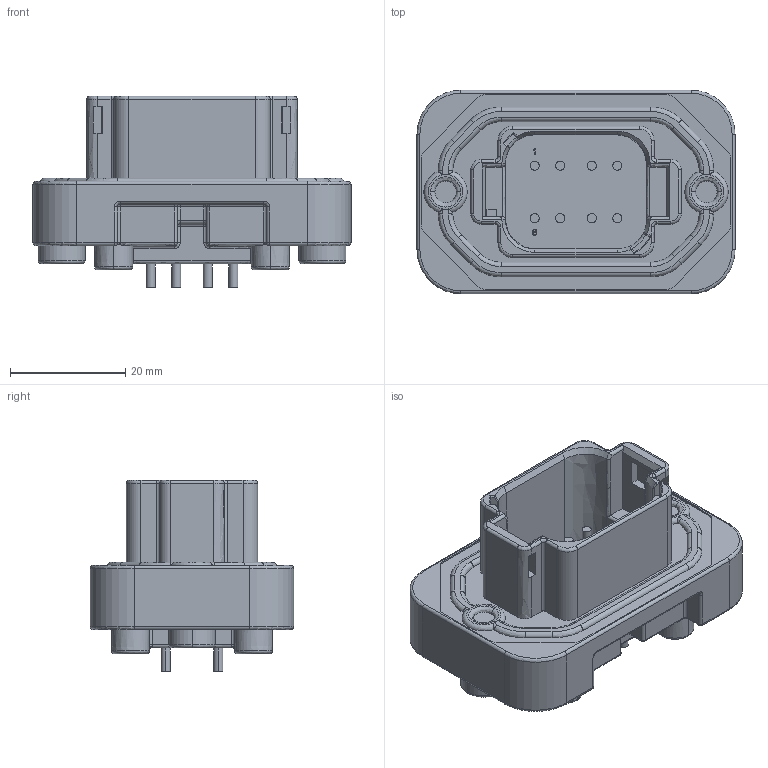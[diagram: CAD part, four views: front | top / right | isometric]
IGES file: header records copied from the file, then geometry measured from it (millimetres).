
Start section:  PTC IGES file: c-dt15-08pd-99-3d.igs
Global section: file name: c-dt15-08pd-99-3d.igs; native system: Pro/ENGINEER by Parametric Technology Corporation; preprocessor: 2010430; author: workeradm; organization: Unknown; units: millimetre
Bounding box: 55.12 x 35.26 x 33.2 mm (x, y, z)
Surface area: 10385.3 mm2 (no closed solid volume)
Topology: 0 solids, 0 shells, 488 faces, 2528 edges, 2528 vertices
Faces by surface type: revolution 275, bspline 213
